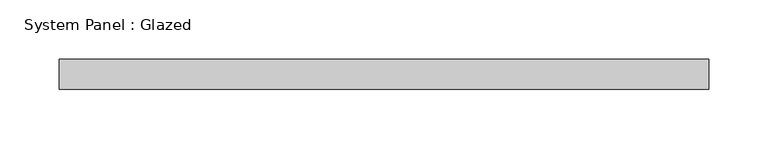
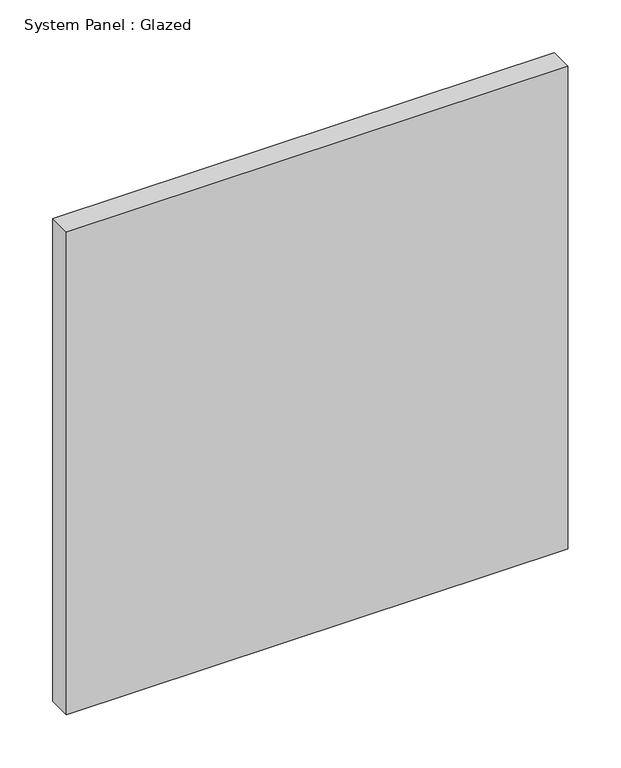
"""IFC4 building model written with IfcOpenShell, lengths in millimetres: plate geometry, System Panel : Glazed."""

from ifc_helpers import new_model, si_unit, origin, origin_with_axes, place, context, project, spatial, polyline, outline, extrude, source, transform, mapped, element, save


def system_panel_glazed_e06c2ed7(model_context):
    return source(origin(), model_context, "Body", "SweptSolid", [
        extrude(outline(polyline([(274.4249409, -12.7), (-274.4249409, -12.7), (-274.4249409, 12.7), (274.4249409, 12.7), (274.4249409, -12.7)])), origin_with_axes(), (0.0, 0.0, 1.0), 558.8),
    ])


if __name__ == "__main__":
    model = new_model("IFC4")
    model_context = context("Model", 3, world=origin())
    ifc_project = project(units=[si_unit("LENGTHUNIT", "METRE", prefix="MILLI")], contexts=[model_context])
    site = spatial("IfcSite", under=ifc_project)
    building = spatial("IfcBuilding", under=site)
    placement = place(None, origin())
    system_panel_glazed_shape = system_panel_glazed_e06c2ed7(model_context)
    element("IfcPlate", 1, ObjectType="System Panel : Glazed", at=placement, inside=building, context=model_context, shape_type="MappedRepresentation", body=[
        mapped(system_panel_glazed_shape, transform((0.0, 0.0, 0.0), x_axis=(1.0, 0.0, 0.0), y_axis=(0.0, 1.0, 0.0), z_axis=(0.0, 0.0, 1.0))),
    ])
    save(model, "model.ifc")
